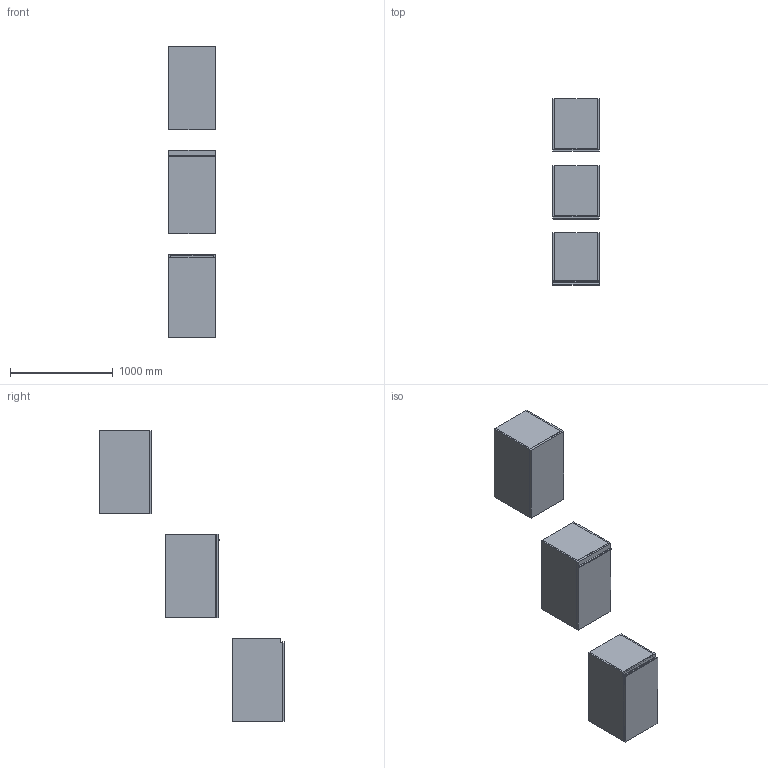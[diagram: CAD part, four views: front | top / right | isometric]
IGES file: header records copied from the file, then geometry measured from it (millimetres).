
Start section: Data from Parasolid IGES Translator 19.0.9, Copyright(c) 2006 Siemens PL M Software. All Rights Reserved.
Global section: file name: noorth-SI-H 81,2 D 51 W 45_9735.igs; native system: By Siemens PLM Incorporated; preprocessor: XPlus GENERIC/IGES 19.0.9; author: Noname; organization: Noname; date: 20200601.142655; units: metre
Bounding box: 450.01 x 1807.1 x 2832.01 mm (x, y, z)
Volume: 80620113.6 mm3; surface area: 11934014.8 mm2
Topology: 20 solids, 20 shells, 178 faces, 382 edges, 234 vertices
Faces by surface type: plane 134, extrusion 16, bspline 16, cylinder 12
